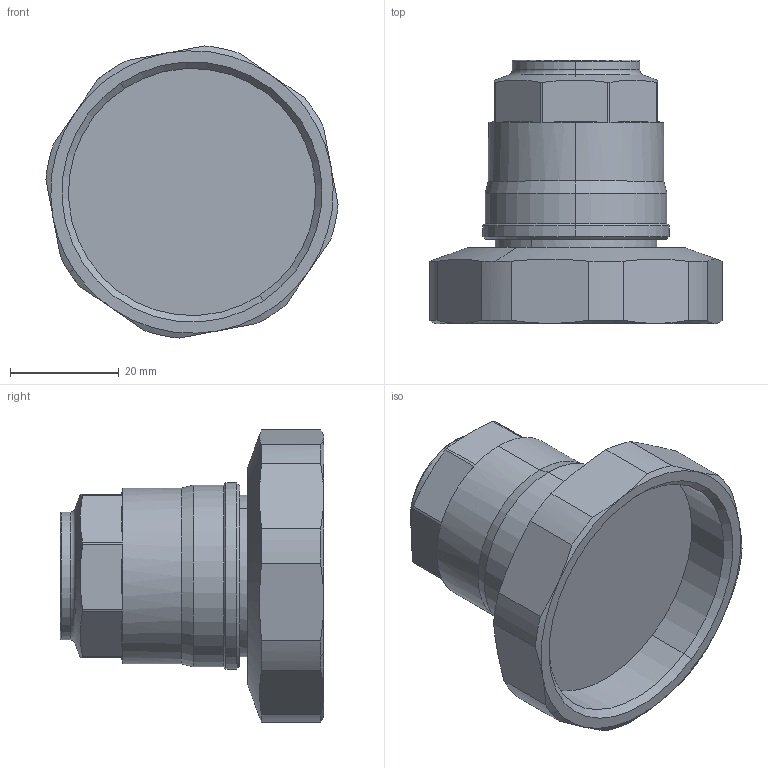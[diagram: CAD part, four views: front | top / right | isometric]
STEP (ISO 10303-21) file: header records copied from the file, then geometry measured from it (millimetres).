
FILE_DESCRIPTION (( 'STEP AP214' ), '1' );
FILE_NAME ('9062000002.step', '2012-10-18T17:06:54', ( '' ), ( '' ), 'SwSTEP 2.0', 'SolidWorks 2012', '' );
FILE_SCHEMA (( 'AUTOMOTIVE_DESIGN' ));
Length unit declared in the file: millimetre
Products named in the file (1): 9062000002
Bounding box: 53.8 x 48.5 x 53.8 mm (x, y, z)
Volume: 40554.2 mm3; surface area: 11451 mm2
Topology: 1 solids, 1 shells, 83 faces, 201 edges, 124 vertices
Faces by surface type: cone 34, cylinder 23, plane 22, torus 4
Entity records: 3441 total; most frequent: CARTESIAN_POINT 572, DIRECTION 419, ORIENTED_EDGE 402, EDGE_CURVE 201, AXIS2_PLACEMENT_3D 177, VERTEX_POINT 124, CIRCLE 93, EDGE_LOOP 87
